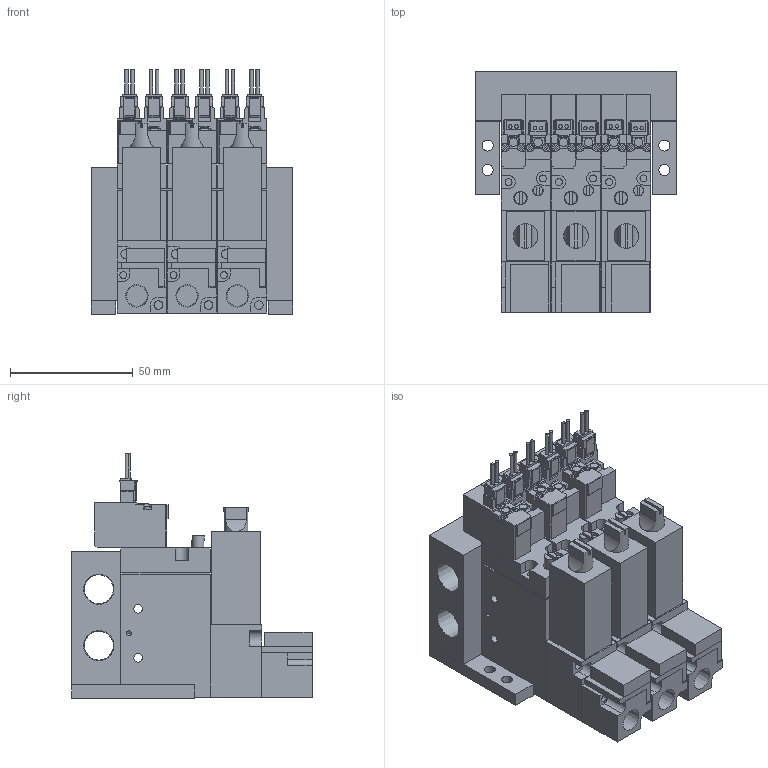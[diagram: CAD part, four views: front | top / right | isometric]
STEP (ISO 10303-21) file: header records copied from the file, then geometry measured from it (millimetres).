
FILE_DESCRIPTION(('STEP AP203'),'1');
FILE_NAME('BMPV32M2NZ25AL303.stp','2025-06-17T01:13:31',(' '),(' '),'Spatial InterOp 3D',' ',' ');
FILE_SCHEMA(('CONFIG_CONTROL_DESIGN'));
Length unit declared in the file: millimetre
Products named in the file (40): BMPV32M2NZ25AL303; S____; ___ ___2; ___-2(Rc); Filter Assy; __; _____; MB03; MB BRACKET; ___; upper plate-A; ______; ____; VACUUM VALVE FUNCTION MPV42-A; UV280-4E
Assembly tree (39 placements, depth 2):
  BMPV32M2NZ25AL303
    S____
    ___ ___2
    ___-2(Rc)
    Filter Assy
    __
    _____
    S____
    ___ ___2
    ___-2(Rc)
    Filter Assy
    __
    _____
    MB03
    MB BRACKET
    MB BRACKET
    S____
    ___ ___2
    ___-2(Rc)
    Filter Assy
    __
    _____
    ___
    upper plate-A
    ______
    ____
    VACUUM VALVE FUNCTION MPV42-A
    ___
    upper plate-A
    ______
    ____
    VACUUM VALVE FUNCTION MPV42-A
    ___
    upper plate-A
    ______
    ____
    VACUUM VALVE FUNCTION MPV42-A
    UV280-4E
    UV280-4E
    UV280-4E
Bounding box: 82 x 98 x 99.75 mm (x, y, z)
Volume: 333707.8 mm3; surface area: 115034.3 mm2
Topology: 39 solids, 39 shells, 1124 faces, 2938 edges, 1945 vertices
Faces by surface type: plane 903, cylinder 195, cone 26
Full cylindrical faces by diameter (mm): 1.4 x12, 1.8 x6, 2 x6, 2.5 x10, 2.8 x12, 3 x12, 3.5 x34, 4 x3, 4.2 x3, 4.5 x4, 5 x3, 5.5 x3, 6.5 x6, 8.522 x3, 11.776 x2
Entity records: 35493 total; most frequent: CARTESIAN_POINT 6042, DIRECTION 5547, ORIENTED_EDGE 5482, EDGE_CURVE 2741, LINE 2239, VECTOR 2239, VERTEX_POINT 1915, AXIS2_PLACEMENT_3D 1654
